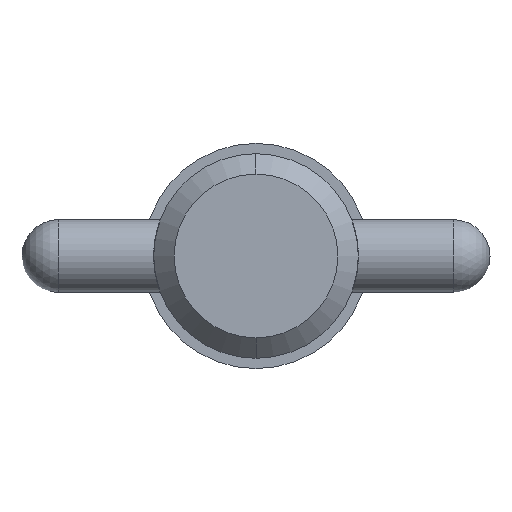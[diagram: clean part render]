
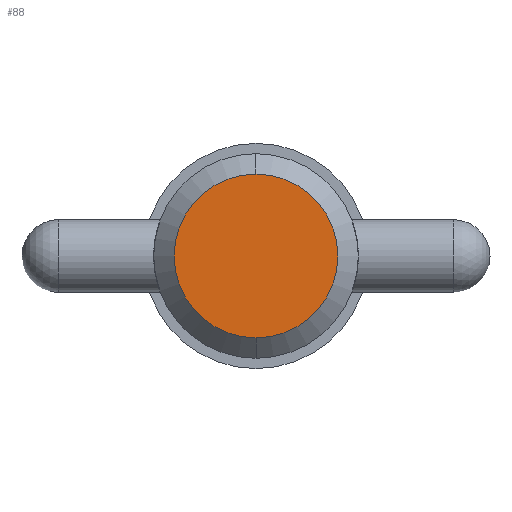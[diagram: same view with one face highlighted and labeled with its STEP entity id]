
A CAD part, left-side view. The second image highlights one B-rep face of the part: STEP entity #88.
In plain terms, the highlighted planar face has unit normal (-1, 0, 0).
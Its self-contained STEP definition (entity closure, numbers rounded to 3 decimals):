
#64 = DIRECTION ( 'NONE',  ( -1., 0., 0. ) ) ;
#86 = CARTESIAN_POINT ( 'NONE',  ( 0., 0., 4.444 ) ) ;
#88 = ADVANCED_FACE ( 'NONE', ( #158 ), #956, .T. ) ;
#96 = DIRECTION ( 'NONE',  ( 0., 0., -1. ) ) ;
#129 = CIRCLE ( 'NONE', #875, 4.444 ) ;
#158 = FACE_OUTER_BOUND ( 'NONE', #464, .T. ) ;
#166 = DIRECTION ( 'NONE',  ( 0., 0., -1. ) ) ;
#199 = EDGE_CURVE ( 'NONE', #764, #631, #590, .T. ) ;
#227 = ORIENTED_EDGE ( 'NONE', *, *, #199, .F. ) ;
#327 = DIRECTION ( 'NONE',  ( 0., 0., 1. ) ) ;
#335 = CARTESIAN_POINT ( 'NONE',  ( 0., 0., 0. ) ) ;
#341 = ORIENTED_EDGE ( 'NONE', *, *, #557, .F. ) ;
#464 = EDGE_LOOP ( 'NONE', ( #227, #341 ) ) ;
#515 = DIRECTION ( 'NONE',  ( 1., 0., 0. ) ) ;
#519 = AXIS2_PLACEMENT_3D ( 'NONE', #966, #64, #327 ) ;
#557 = EDGE_CURVE ( 'NONE', #631, #764, #129, .T. ) ;
#576 = CARTESIAN_POINT ( 'NONE',  ( 0., 0., 0. ) ) ;
#590 = CIRCLE ( 'NONE', #655, 4.444 ) ;
#631 = VERTEX_POINT ( 'NONE', #86 ) ;
#655 = AXIS2_PLACEMENT_3D ( 'NONE', #335, #515, #96 ) ;
#697 = CARTESIAN_POINT ( 'NONE',  ( 0., 0., -4.444 ) ) ;
#737 = DIRECTION ( 'NONE',  ( 1., 0., 0. ) ) ;
#764 = VERTEX_POINT ( 'NONE', #697 ) ;
#875 = AXIS2_PLACEMENT_3D ( 'NONE', #576, #737, #166 ) ;
#956 = PLANE ( 'NONE',  #519 ) ;
#966 = CARTESIAN_POINT ( 'NONE',  ( 0., 0., 0. ) ) ;
